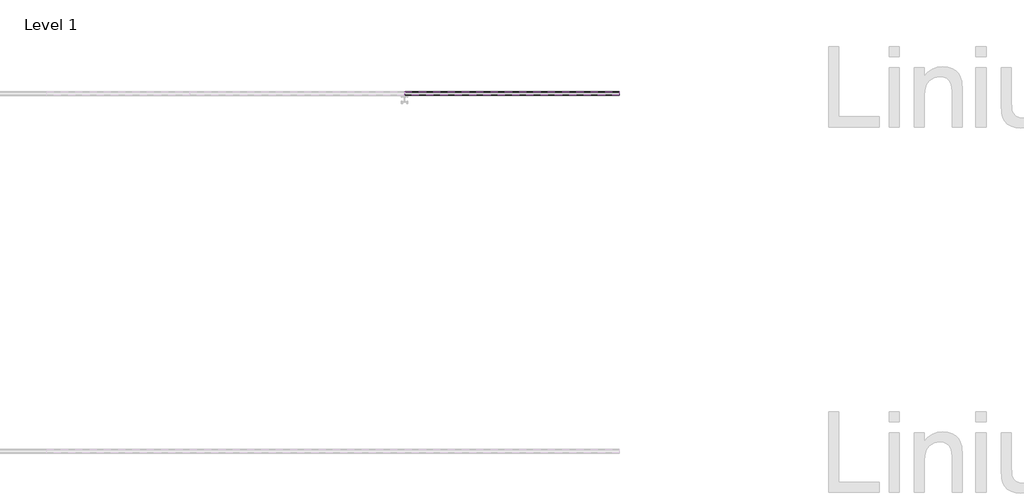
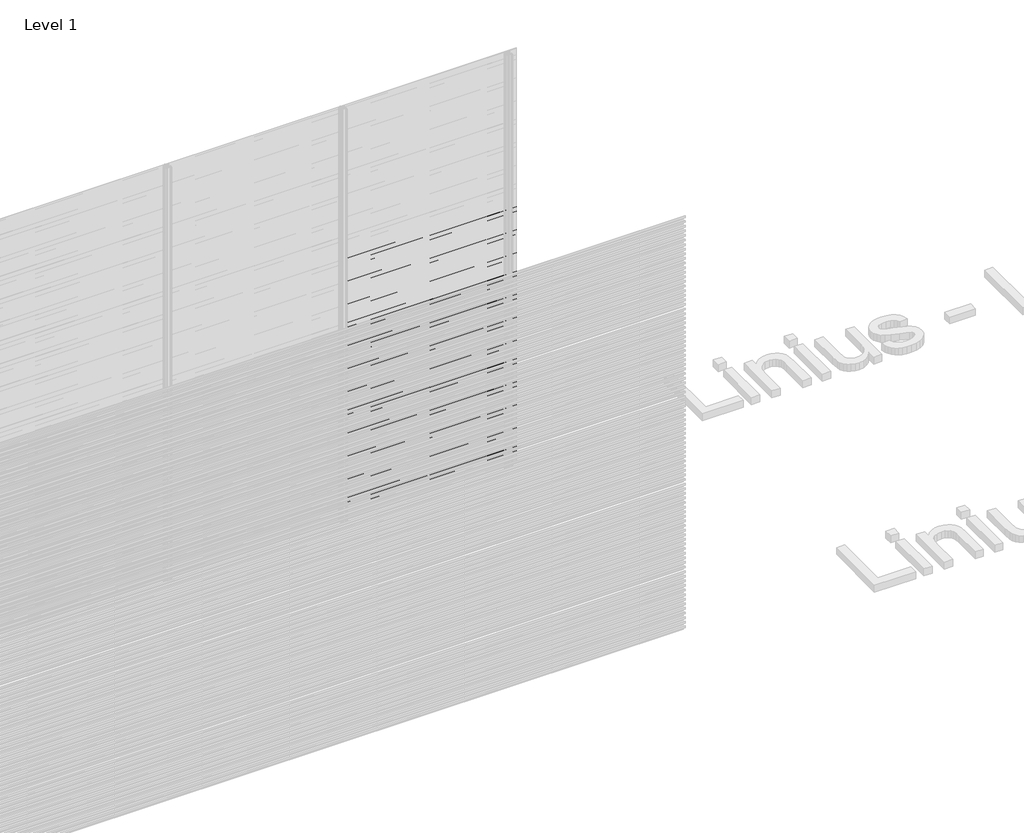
# One storey, part 42 of 507: 58 proxies.
"""IFC4 building model written with IfcOpenShell, lengths in millimetres."""

import ifcopenshell
import ifcopenshell.guid

model = None  # the IFC model being written
_history = None  # IfcOwnerHistory: only IFC2X3 demands one
_inside = {}  # id of a spatial element -> (the spatial element, [elements in it])
_under = {}  # id of a project, library or spatial element -> (it, [spatial elements below it])
_declared = {}  # id of a project -> (the project, [libraries it declares])
_typed = {}  # id of a type object -> (the type object, [elements of that type])
_made_of = {}  # id of a material, layer set ... -> (it, [elements and type objects made of it])


def new_model(schema):
    """Start an empty IFC model of exactly this schema.

    Asked for "IFC4X3", IfcOpenShell would pick the latest addendum, in which some entities
    have other attributes; the version numbers below select the first issue.
    IFC2X3 requires an IfcOwnerHistory on every rooted entity: one is made here for all.
    """
    global model, _history
    if schema == "IFC4X3":
        model = ifcopenshell.file(schema_version=(4, 3, 0, 0))
    else:
        model = ifcopenshell.file(schema=schema)
    _inside.clear()
    _under.clear()
    _declared.clear()
    _typed.clear()
    _made_of.clear()
    _history = None
    if model.schema == "IFC2X3":
        org = make("IfcOrganization", Name="unknown")
        user = make(
            "IfcPersonAndOrganization",
            ThePerson=make("IfcPerson", FamilyName="unknown"),
            TheOrganization=org,
        )
        app = make(
            "IfcApplication",
            ApplicationDeveloper=org,
            Version="unknown",
            ApplicationFullName="unknown",
            ApplicationIdentifier="unknown",
        )
        _history = make(
            "IfcOwnerHistory",
            OwningUser=user,
            OwningApplication=app,
            ChangeAction="ADDED",
            CreationDate=0,
        )
    return model


def make(cls, **values):
    """One entity of the class cls with the attributes given. An attribute that is None is left unset."""
    return model.create_entity(
        cls, **{name: value for name, value in values.items() if value is not None}
    )


def rooted(cls, **values):
    """An entity with a GlobalId (a new one), such as an element, a storey or a relation."""
    return make(cls, GlobalId=ifcopenshell.guid.new(), OwnerHistory=_history, **values)


def si_unit(unit_type, name, prefix=None):
    """IfcSIUnit, for example si_unit("LENGTHUNIT", "METRE", prefix="MILLI")."""
    return make("IfcSIUnit", UnitType=unit_type, Prefix=prefix, Name=name)


def assignment(units):
    """IfcUnitAssignment: the units of a project."""
    return None if units is None else make("IfcUnitAssignment", Units=units)


def point(xyz):
    """IfcCartesianPoint."""
    return None if xyz is None else make("IfcCartesianPoint", Coordinates=xyz)


def direction(xyz):
    """IfcDirection."""
    return None if xyz is None else make("IfcDirection", DirectionRatios=xyz)


def frame(location, z_axis=None, x_axis=None):
    """IfcAxis2Placement3D, a coordinate frame: its origin and axes. An axis left out is left unset."""
    return make(
        "IfcAxis2Placement3D",
        Location=point(location),
        Axis=direction(z_axis),
        RefDirection=direction(x_axis),
    )


def origin():
    """The frame at (0, 0, 0) with its axes left unset."""
    return frame((0.0, 0.0, 0.0))


def place(relative_to, where):
    """IfcLocalPlacement: puts the frame where relative to a parent placement (None: the world)."""
    return make(
        "IfcLocalPlacement", PlacementRelTo=relative_to, RelativePlacement=where
    )


def context(
    kind, dimensions, precision=None, world=None, true_north=None, identifier=None
):
    """IfcGeometricRepresentationContext, for example the 3D "Model" context."""
    return make(
        "IfcGeometricRepresentationContext",
        ContextIdentifier=identifier,
        ContextType=kind,
        CoordinateSpaceDimension=dimensions,
        Precision=precision,
        WorldCoordinateSystem=world,
        TrueNorth=true_north,
    )


def project(units=None, contexts=None):
    """IfcProject with its units and contexts."""
    return rooted(
        "IfcProject",
        Name="project",
        RepresentationContexts=contexts,
        UnitsInContext=assignment(units),
    )


def spatial(cls, under=None, at=None, **own):
    """A site, building, storey or space (cls), placed at a placement, below another one or the project."""
    s = rooted(cls, ObjectPlacement=at, **own)
    if under is not None:
        _under.setdefault(under.id(), (under, []))[1].append(s)
    return s


def polyline(points):
    """IfcPolyline through the points."""
    return make("IfcPolyline", Points=[point(p) for p in points])


def outline(outer, holes=None, kind="AREA"):
    """IfcArbitraryClosedProfileDef: a profile drawn as a closed curve; with holes, ...WithVoids."""
    if holes is None:
        return make("IfcArbitraryClosedProfileDef", ProfileType=kind, OuterCurve=outer)
    return make(
        "IfcArbitraryProfileDefWithVoids",
        ProfileType=kind,
        OuterCurve=outer,
        InnerCurves=holes,
    )


def extrude(swept, where, along, depth):
    """IfcExtrudedAreaSolid: the profile swept, set in the frame where, extruded along a direction by depth."""
    return make(
        "IfcExtrudedAreaSolid",
        SweptArea=swept,
        Position=where,
        ExtrudedDirection=direction(along),
        Depth=depth,
    )


def shape(context_of_items, identifier, shape_type, items):
    """IfcShapeRepresentation: the items that make up one representation, for example the "Body"."""
    return make(
        "IfcShapeRepresentation",
        ContextOfItems=context_of_items,
        RepresentationIdentifier=identifier,
        RepresentationType=shape_type,
        Items=items,
    )


def made_of(thing, what):
    """Note that an element or type object is made of a material, layer set ...; save() writes the relation."""
    if what is not None:
        _made_of.setdefault(what.id(), (what, []))[1].append(thing)
    return thing


def element(
    cls,
    number,
    at=None,
    inside=None,
    cuts=None,
    type_object=None,
    material=None,
    context=None,
    identifier="Body",
    shape_type=None,
    held_by="IfcProductDefinitionShape",
    body=None,
    shapes=None,
    **own,
):
    """One element of the class cls, such as IfcWall. Its Tag is "e" and its number.

    at: its placement. inside: the storey or other place that contains it. cuts: it is an
    opening in that element (IfcRelVoidsElement). A single representation is given by context,
    identifier, shape_type and body (its items); several are given by shapes. held_by: the class
    of the entity that holds the representations. save() writes the other relations.
    """
    e = rooted(cls, Tag="e%d" % number, ObjectPlacement=at, **own)
    if body is not None:
        shapes = [shape(context, identifier, shape_type, body)]
    if shapes is not None:
        e.Representation = make(held_by, Representations=shapes)
    if inside is not None:
        _inside.setdefault(inside.id(), (inside, []))[1].append(e)
    if cuts is not None:
        rooted(
            "IfcRelVoidsElement", RelatingBuildingElement=cuts, RelatedOpeningElement=e
        )
    if type_object is not None:
        _typed.setdefault(type_object.id(), (type_object, []))[1].append(e)
    return made_of(e, material)


def aggregate(whole, parts):
    """IfcRelAggregates: a whole, such as a stair, and the parts it consists of."""
    return rooted("IfcRelAggregates", RelatingObject=whole, RelatedObjects=parts)


def save(model, path):
    """Write the relations noted so far, then the file.

    IfcRelAggregates (storeys below a building ...), IfcRelContainedInSpatialStructure (elements
    in a storey), IfcRelDefinesByType, IfcRelAssociatesMaterial and IfcRelDeclares: one each for
    every whole, place, type object, material and project.
    """
    for whole, parts in _under.values():
        aggregate(whole, parts)
    for where, things in _inside.values():
        rooted(
            "IfcRelContainedInSpatialStructure",
            RelatedElements=things,
            RelatingStructure=where,
        )
    for kind, things in _typed.values():
        rooted("IfcRelDefinesByType", RelatedObjects=things, RelatingType=kind)
    for what, things in _made_of.values():
        rooted("IfcRelAssociatesMaterial", RelatedObjects=things, RelatingMaterial=what)
    for by, libraries in _declared.values():
        rooted("IfcRelDeclares", RelatingContext=by, RelatedDefinitions=libraries)
    model.write(path)


model = new_model("IFC4")

# Units and contexts
model_context = context("Model", 3, world=origin())
ifc_project = project(units=[si_unit("LENGTHUNIT", "METRE", prefix="MILLI")], contexts=[model_context])

# Site, building, storey
site = spatial("IfcSite", under=ifc_project)
building = spatial("IfcBuilding", under=site)
storey = spatial("IfcBuildingStorey", under=building, Name="Level 1", Elevation=0.0)

# Proxies
placement = place(None, origin())
element("IfcBuildingElementProxy", 1, Name="Wall Sweeps", at=placement, inside=storey, context=model_context, shape_type="SweptSolid", body=[
    extrude(outline(polyline([(21503.4540136, 1907.4), (21503.4540136, 1893.9), (21502.2040136, 1894.6216933), (21502.2040136, 1906.6782281), (21483.0540136, 1917.7345698), (21483.0540136, 1931.4), (21484.3040136, 1931.4), (21484.3040136, 1918.4562577), (21503.4540136, 1907.4)])), frame((49766.6208095, 0.0, 0.0), z_axis=(1.0, 0.0, 0.0), x_axis=(0.0, 1.0, 0.0)), (0.0, 0.0, 1.0), 1200.0000002),
])
element("IfcBuildingElementProxy", 2, Name="Wall Sweeps", at=placement, inside=storey, context=model_context, shape_type="SweptSolid", body=[
    extrude(outline(polyline([(21503.4540136, 1874.1), (21503.4540136, 1860.6), (21502.2040136, 1861.3216933), (21502.2040136, 1873.3782281), (21483.0540136, 1884.4345698), (21483.0540136, 1898.1), (21484.3040136, 1898.1), (21484.3040136, 1885.1562577), (21503.4540136, 1874.1)])), frame((49766.6208095, 0.0, 0.0), z_axis=(1.0, 0.0, 0.0), x_axis=(0.0, 1.0, 0.0)), (0.0, 0.0, 1.0), 1200.0000002),
])
element("IfcBuildingElementProxy", 3, Name="Wall Sweeps", at=placement, inside=storey, context=model_context, shape_type="SweptSolid", body=[
    extrude(outline(polyline([(21503.4540136, 1840.8), (21503.4540136, 1827.3), (21502.2040136, 1828.0216933), (21502.2040136, 1840.0782281), (21483.0540136, 1851.1345698), (21483.0540136, 1864.8), (21484.3040136, 1864.8), (21484.3040136, 1851.8562577), (21503.4540136, 1840.8)])), frame((49766.6208095, 0.0, 0.0), z_axis=(1.0, 0.0, 0.0), x_axis=(0.0, 1.0, 0.0)), (0.0, 0.0, 1.0), 1200.0000002),
])
element("IfcBuildingElementProxy", 4, Name="Wall Sweeps", at=placement, inside=storey, context=model_context, shape_type="SweptSolid", body=[
    extrude(outline(polyline([(21503.4540136, 1807.5), (21503.4540136, 1794.0), (21502.2040136, 1794.7216933), (21502.2040136, 1806.7782281), (21483.0540136, 1817.8345698), (21483.0540136, 1831.5), (21484.3040136, 1831.5), (21484.3040136, 1818.5562577), (21503.4540136, 1807.5)])), frame((49766.6208095, 0.0, 0.0), z_axis=(1.0, 0.0, 0.0), x_axis=(0.0, 1.0, 0.0)), (0.0, 0.0, 1.0), 1200.0000002),
])
element("IfcBuildingElementProxy", 5, Name="Wall Sweeps", at=placement, inside=storey, context=model_context, shape_type="SweptSolid", body=[
    extrude(outline(polyline([(21503.4540136, 1774.2), (21503.4540136, 1760.7), (21502.2040136, 1761.4216933), (21502.2040136, 1773.4782281), (21483.0540136, 1784.5345698), (21483.0540136, 1798.2), (21484.3040136, 1798.2), (21484.3040136, 1785.2562577), (21503.4540136, 1774.2)])), frame((49766.6208095, 0.0, 0.0), z_axis=(1.0, 0.0, 0.0), x_axis=(0.0, 1.0, 0.0)), (0.0, 0.0, 1.0), 1200.0000002),
])
element("IfcBuildingElementProxy", 6, Name="Wall Sweeps", at=placement, inside=storey, context=model_context, shape_type="SweptSolid", body=[
    extrude(outline(polyline([(21503.4540136, 1740.9), (21503.4540136, 1727.4), (21502.2040136, 1728.1216933), (21502.2040136, 1740.1782281), (21483.0540136, 1751.2345698), (21483.0540136, 1764.9), (21484.3040136, 1764.9), (21484.3040136, 1751.9562577), (21503.4540136, 1740.9)])), frame((49766.6208095, 0.0, 0.0), z_axis=(1.0, 0.0, 0.0), x_axis=(0.0, 1.0, 0.0)), (0.0, 0.0, 1.0), 1200.0000002),
])
element("IfcBuildingElementProxy", 7, Name="Wall Sweeps", at=placement, inside=storey, context=model_context, shape_type="SweptSolid", body=[
    extrude(outline(polyline([(21503.4540136, 1707.6), (21503.4540136, 1694.1), (21502.2040136, 1694.8216933), (21502.2040136, 1706.8782281), (21483.0540136, 1717.9345698), (21483.0540136, 1731.6), (21484.3040136, 1731.6), (21484.3040136, 1718.6562577), (21503.4540136, 1707.6)])), frame((49766.6208095, 0.0, 0.0), z_axis=(1.0, 0.0, 0.0), x_axis=(0.0, 1.0, 0.0)), (0.0, 0.0, 1.0), 1200.0000002),
])
element("IfcBuildingElementProxy", 8, Name="Wall Sweeps", at=placement, inside=storey, context=model_context, shape_type="SweptSolid", body=[
    extrude(outline(polyline([(21503.4540136, 1674.3), (21503.4540136, 1660.8), (21502.2040136, 1661.5216933), (21502.2040136, 1673.5782281), (21483.0540136, 1684.6345698), (21483.0540136, 1698.3), (21484.3040136, 1698.3), (21484.3040136, 1685.3562577), (21503.4540136, 1674.3)])), frame((49766.6208095, 0.0, 0.0), z_axis=(1.0, 0.0, 0.0), x_axis=(0.0, 1.0, 0.0)), (0.0, 0.0, 1.0), 1200.0000002),
])
element("IfcBuildingElementProxy", 9, Name="Wall Sweeps", at=placement, inside=storey, context=model_context, shape_type="SweptSolid", body=[
    extrude(outline(polyline([(21503.4540136, 1641.0), (21503.4540136, 1627.5), (21502.2040136, 1628.2216933), (21502.2040136, 1640.2782281), (21483.0540136, 1651.3345698), (21483.0540136, 1665.0), (21484.3040136, 1665.0), (21484.3040136, 1652.0562577), (21503.4540136, 1641.0)])), frame((49766.6208095, 0.0, 0.0), z_axis=(1.0, 0.0, 0.0), x_axis=(0.0, 1.0, 0.0)), (0.0, 0.0, 1.0), 1200.0000002),
])
element("IfcBuildingElementProxy", 10, Name="Wall Sweeps", at=placement, inside=storey, context=model_context, shape_type="SweptSolid", body=[
    extrude(outline(polyline([(21503.4540136, 1607.7), (21503.4540136, 1594.2), (21502.2040136, 1594.9216933), (21502.2040136, 1606.9782281), (21483.0540136, 1618.0345698), (21483.0540136, 1631.7), (21484.3040136, 1631.7), (21484.3040136, 1618.7562577), (21503.4540136, 1607.7)])), frame((49766.6208095, 0.0, 0.0), z_axis=(1.0, 0.0, 0.0), x_axis=(0.0, 1.0, 0.0)), (0.0, 0.0, 1.0), 1200.0000002),
])
element("IfcBuildingElementProxy", 11, Name="Wall Sweeps", at=placement, inside=storey, context=model_context, shape_type="SweptSolid", body=[
    extrude(outline(polyline([(21503.4540136, 1574.4), (21503.4540136, 1560.9), (21502.2040136, 1561.6216933), (21502.2040136, 1573.6782281), (21483.0540136, 1584.7345698), (21483.0540136, 1598.4), (21484.3040136, 1598.4), (21484.3040136, 1585.4562577), (21503.4540136, 1574.4)])), frame((49766.6208095, 0.0, 0.0), z_axis=(1.0, 0.0, 0.0), x_axis=(0.0, 1.0, 0.0)), (0.0, 0.0, 1.0), 1200.0000002),
])
element("IfcBuildingElementProxy", 12, Name="Wall Sweeps", at=placement, inside=storey, context=model_context, shape_type="SweptSolid", body=[
    extrude(outline(polyline([(21503.4540136, 1541.1), (21503.4540136, 1527.6), (21502.2040136, 1528.3216933), (21502.2040136, 1540.3782281), (21483.0540136, 1551.4345698), (21483.0540136, 1565.1), (21484.3040136, 1565.1), (21484.3040136, 1552.1562577), (21503.4540136, 1541.1)])), frame((49766.6208095, 0.0, 0.0), z_axis=(1.0, 0.0, 0.0), x_axis=(0.0, 1.0, 0.0)), (0.0, 0.0, 1.0), 1200.0000002),
])
element("IfcBuildingElementProxy", 13, Name="Wall Sweeps", at=placement, inside=storey, context=model_context, shape_type="SweptSolid", body=[
    extrude(outline(polyline([(21503.4540136, 1507.8), (21503.4540136, 1494.3), (21502.2040136, 1495.0216933), (21502.2040136, 1507.0782281), (21483.0540136, 1518.1345698), (21483.0540136, 1531.8), (21484.3040136, 1531.8), (21484.3040136, 1518.8562577), (21503.4540136, 1507.8)])), frame((49766.6208095, 0.0, 0.0), z_axis=(1.0, 0.0, 0.0), x_axis=(0.0, 1.0, 0.0)), (0.0, 0.0, 1.0), 1200.0000002),
])
element("IfcBuildingElementProxy", 14, Name="Wall Sweeps", at=placement, inside=storey, context=model_context, shape_type="SweptSolid", body=[
    extrude(outline(polyline([(21503.4540136, 1474.5), (21503.4540136, 1461.0), (21502.2040136, 1461.7216933), (21502.2040136, 1473.7782281), (21483.0540136, 1484.8345698), (21483.0540136, 1498.5), (21484.3040136, 1498.5), (21484.3040136, 1485.5562577), (21503.4540136, 1474.5)])), frame((49766.6208095, 0.0, 0.0), z_axis=(1.0, 0.0, 0.0), x_axis=(0.0, 1.0, 0.0)), (0.0, 0.0, 1.0), 1200.0000002),
])
element("IfcBuildingElementProxy", 15, Name="Wall Sweeps", at=placement, inside=storey, context=model_context, shape_type="SweptSolid", body=[
    extrude(outline(polyline([(21503.4540136, 1441.2), (21503.4540136, 1427.7), (21502.2040136, 1428.4216933), (21502.2040136, 1440.4782281), (21483.0540136, 1451.5345698), (21483.0540136, 1465.2), (21484.3040136, 1465.2), (21484.3040136, 1452.2562577), (21503.4540136, 1441.2)])), frame((49766.6208095, 0.0, 0.0), z_axis=(1.0, 0.0, 0.0), x_axis=(0.0, 1.0, 0.0)), (0.0, 0.0, 1.0), 1200.0000002),
])
element("IfcBuildingElementProxy", 16, Name="Wall Sweeps", at=placement, inside=storey, context=model_context, shape_type="SweptSolid", body=[
    extrude(outline(polyline([(21503.4540136, 1407.9), (21503.4540136, 1394.4), (21502.2040136, 1395.1216933), (21502.2040136, 1407.1782281), (21483.0540136, 1418.2345698), (21483.0540136, 1431.9), (21484.3040136, 1431.9), (21484.3040136, 1418.9562577), (21503.4540136, 1407.9)])), frame((49766.6208095, 0.0, 0.0), z_axis=(1.0, 0.0, 0.0), x_axis=(0.0, 1.0, 0.0)), (0.0, 0.0, 1.0), 1200.0000002),
])
element("IfcBuildingElementProxy", 17, Name="Wall Sweeps", at=placement, inside=storey, context=model_context, shape_type="SweptSolid", body=[
    extrude(outline(polyline([(21503.4540136, 1374.6), (21503.4540136, 1361.1), (21502.2040136, 1361.8216933), (21502.2040136, 1373.8782281), (21483.0540136, 1384.9345698), (21483.0540136, 1398.6), (21484.3040136, 1398.6), (21484.3040136, 1385.6562577), (21503.4540136, 1374.6)])), frame((49766.6208095, 0.0, 0.0), z_axis=(1.0, 0.0, 0.0), x_axis=(0.0, 1.0, 0.0)), (0.0, 0.0, 1.0), 1200.0000002),
])
element("IfcBuildingElementProxy", 18, Name="Wall Sweeps", at=placement, inside=storey, context=model_context, shape_type="SweptSolid", body=[
    extrude(outline(polyline([(21503.4540136, 1341.3), (21503.4540136, 1327.8), (21502.2040136, 1328.5216933), (21502.2040136, 1340.5782281), (21483.0540136, 1351.6345698), (21483.0540136, 1365.3), (21484.3040136, 1365.3), (21484.3040136, 1352.3562577), (21503.4540136, 1341.3)])), frame((49766.6208095, 0.0, 0.0), z_axis=(1.0, 0.0, 0.0), x_axis=(0.0, 1.0, 0.0)), (0.0, 0.0, 1.0), 1200.0000002),
])
element("IfcBuildingElementProxy", 19, Name="Wall Sweeps", at=placement, inside=storey, context=model_context, shape_type="SweptSolid", body=[
    extrude(outline(polyline([(21503.4540136, 1308.0), (21503.4540136, 1294.5), (21502.2040136, 1295.2216933), (21502.2040136, 1307.2782281), (21483.0540136, 1318.3345698), (21483.0540136, 1332.0), (21484.3040136, 1332.0), (21484.3040136, 1319.0562577), (21503.4540136, 1308.0)])), frame((49766.6208095, 0.0, 0.0), z_axis=(1.0, 0.0, 0.0), x_axis=(0.0, 1.0, 0.0)), (0.0, 0.0, 1.0), 1200.0000002),
])
element("IfcBuildingElementProxy", 20, Name="Wall Sweeps", at=placement, inside=storey, context=model_context, shape_type="SweptSolid", body=[
    extrude(outline(polyline([(21503.4540136, 1274.7), (21503.4540136, 1261.2), (21502.2040136, 1261.9216933), (21502.2040136, 1273.9782281), (21483.0540136, 1285.0345698), (21483.0540136, 1298.7), (21484.3040136, 1298.7), (21484.3040136, 1285.7562577), (21503.4540136, 1274.7)])), frame((49766.6208095, 0.0, 0.0), z_axis=(1.0, 0.0, 0.0), x_axis=(0.0, 1.0, 0.0)), (0.0, 0.0, 1.0), 1200.0000002),
])
element("IfcBuildingElementProxy", 21, Name="Wall Sweeps", at=placement, inside=storey, context=model_context, shape_type="SweptSolid", body=[
    extrude(outline(polyline([(21503.4540136, 1241.4), (21503.4540136, 1227.9), (21502.2040136, 1228.6216933), (21502.2040136, 1240.6782281), (21483.0540136, 1251.7345698), (21483.0540136, 1265.4), (21484.3040136, 1265.4), (21484.3040136, 1252.4562577), (21503.4540136, 1241.4)])), frame((49766.6208095, 0.0, 0.0), z_axis=(1.0, 0.0, 0.0), x_axis=(0.0, 1.0, 0.0)), (0.0, 0.0, 1.0), 1200.0000002),
])
element("IfcBuildingElementProxy", 22, Name="Wall Sweeps", at=placement, inside=storey, context=model_context, shape_type="SweptSolid", body=[
    extrude(outline(polyline([(21503.4540136, 1208.1), (21503.4540136, 1194.6), (21502.2040136, 1195.3216933), (21502.2040136, 1207.3782281), (21483.0540136, 1218.4345698), (21483.0540136, 1232.1), (21484.3040136, 1232.1), (21484.3040136, 1219.1562577), (21503.4540136, 1208.1)])), frame((49766.6208095, 0.0, 0.0), z_axis=(1.0, 0.0, 0.0), x_axis=(0.0, 1.0, 0.0)), (0.0, 0.0, 1.0), 1200.0000002),
])
element("IfcBuildingElementProxy", 23, Name="Wall Sweeps", at=placement, inside=storey, context=model_context, shape_type="SweptSolid", body=[
    extrude(outline(polyline([(21503.4540136, 1174.8), (21503.4540136, 1161.3), (21502.2040136, 1162.0216933), (21502.2040136, 1174.0782281), (21483.0540136, 1185.1345698), (21483.0540136, 1198.8), (21484.3040136, 1198.8), (21484.3040136, 1185.8562577), (21503.4540136, 1174.8)])), frame((49766.6208095, 0.0, 0.0), z_axis=(1.0, 0.0, 0.0), x_axis=(0.0, 1.0, 0.0)), (0.0, 0.0, 1.0), 1200.0000002),
])
element("IfcBuildingElementProxy", 24, Name="Wall Sweeps", at=placement, inside=storey, context=model_context, shape_type="SweptSolid", body=[
    extrude(outline(polyline([(21503.4540136, 1141.5), (21503.4540136, 1128.0), (21502.2040136, 1128.7216933), (21502.2040136, 1140.7782281), (21483.0540136, 1151.8345698), (21483.0540136, 1165.5), (21484.3040136, 1165.5), (21484.3040136, 1152.5562577), (21503.4540136, 1141.5)])), frame((49766.6208095, 0.0, 0.0), z_axis=(1.0, 0.0, 0.0), x_axis=(0.0, 1.0, 0.0)), (0.0, 0.0, 1.0), 1200.0000002),
])
element("IfcBuildingElementProxy", 25, Name="Wall Sweeps", at=placement, inside=storey, context=model_context, shape_type="SweptSolid", body=[
    extrude(outline(polyline([(21503.4540136, 1108.2), (21503.4540136, 1094.7), (21502.2040136, 1095.4216933), (21502.2040136, 1107.4782281), (21483.0540136, 1118.5345698), (21483.0540136, 1132.2), (21484.3040136, 1132.2), (21484.3040136, 1119.2562577), (21503.4540136, 1108.2)])), frame((49766.6208095, 0.0, 0.0), z_axis=(1.0, 0.0, 0.0), x_axis=(0.0, 1.0, 0.0)), (0.0, 0.0, 1.0), 1200.0000002),
])
element("IfcBuildingElementProxy", 26, Name="Wall Sweeps", at=placement, inside=storey, context=model_context, shape_type="SweptSolid", body=[
    extrude(outline(polyline([(21503.4540136, 1074.9), (21503.4540136, 1061.4), (21502.2040136, 1062.1216933), (21502.2040136, 1074.1782281), (21483.0540136, 1085.2345698), (21483.0540136, 1098.9), (21484.3040136, 1098.9), (21484.3040136, 1085.9562577), (21503.4540136, 1074.9)])), frame((49766.6208095, 0.0, 0.0), z_axis=(1.0, 0.0, 0.0), x_axis=(0.0, 1.0, 0.0)), (0.0, 0.0, 1.0), 1200.0000002),
])
element("IfcBuildingElementProxy", 27, Name="Wall Sweeps", at=placement, inside=storey, context=model_context, shape_type="SweptSolid", body=[
    extrude(outline(polyline([(21503.4540136, 1041.6), (21503.4540136, 1028.1), (21502.2040136, 1028.8216933), (21502.2040136, 1040.8782281), (21483.0540136, 1051.9345698), (21483.0540136, 1065.6), (21484.3040136, 1065.6), (21484.3040136, 1052.6562577), (21503.4540136, 1041.6)])), frame((49766.6208095, 0.0, 0.0), z_axis=(1.0, 0.0, 0.0), x_axis=(0.0, 1.0, 0.0)), (0.0, 0.0, 1.0), 1200.0000002),
])
element("IfcBuildingElementProxy", 28, Name="Wall Sweeps", at=placement, inside=storey, context=model_context, shape_type="SweptSolid", body=[
    extrude(outline(polyline([(21503.4540136, 1008.3), (21503.4540136, 994.8), (21502.2040136, 995.5216933), (21502.2040136, 1007.5782281), (21483.0540136, 1018.6345698), (21483.0540136, 1032.3), (21484.3040136, 1032.3), (21484.3040136, 1019.3562577), (21503.4540136, 1008.3)])), frame((49766.6208095, 0.0, 0.0), z_axis=(1.0, 0.0, 0.0), x_axis=(0.0, 1.0, 0.0)), (0.0, 0.0, 1.0), 1200.0000002),
])
element("IfcBuildingElementProxy", 29, Name="Wall Sweeps", at=placement, inside=storey, context=model_context, shape_type="SweptSolid", body=[
    extrude(outline(polyline([(21503.4540136, 975.0), (21503.4540136, 961.5), (21502.2040136, 962.2216933), (21502.2040136, 974.2782281), (21483.0540136, 985.3345698), (21483.0540136, 999.0), (21484.3040136, 999.0), (21484.3040136, 986.0562577), (21503.4540136, 975.0)])), frame((49766.6208095, 0.0, 0.0), z_axis=(1.0, 0.0, 0.0), x_axis=(0.0, 1.0, 0.0)), (0.0, 0.0, 1.0), 1200.0000002),
])
element("IfcBuildingElementProxy", 30, Name="Wall Sweeps", at=placement, inside=storey, context=model_context, shape_type="SweptSolid", body=[
    extrude(outline(polyline([(21503.4540136, 941.7), (21503.4540136, 928.2), (21502.2040136, 928.9216933), (21502.2040136, 940.9782281), (21483.0540136, 952.0345698), (21483.0540136, 965.7), (21484.3040136, 965.7), (21484.3040136, 952.7562577), (21503.4540136, 941.7)])), frame((49766.6208095, 0.0, 0.0), z_axis=(1.0, 0.0, 0.0), x_axis=(0.0, 1.0, 0.0)), (0.0, 0.0, 1.0), 1200.0000002),
])
element("IfcBuildingElementProxy", 31, Name="Wall Sweeps", at=placement, inside=storey, context=model_context, shape_type="SweptSolid", body=[
    extrude(outline(polyline([(21503.4540136, 908.4), (21503.4540136, 894.9), (21502.2040136, 895.6216933), (21502.2040136, 907.6782281), (21483.0540136, 918.7345698), (21483.0540136, 932.4), (21484.3040136, 932.4), (21484.3040136, 919.4562577), (21503.4540136, 908.4)])), frame((49766.6208095, 0.0, 0.0), z_axis=(1.0, 0.0, 0.0), x_axis=(0.0, 1.0, 0.0)), (0.0, 0.0, 1.0), 1200.0000002),
])
element("IfcBuildingElementProxy", 32, Name="Wall Sweeps", at=placement, inside=storey, context=model_context, shape_type="SweptSolid", body=[
    extrude(outline(polyline([(21503.4540136, 875.1), (21503.4540136, 861.6), (21502.2040136, 862.3216933), (21502.2040136, 874.3782281), (21483.0540136, 885.4345698), (21483.0540136, 899.1), (21484.3040136, 899.1), (21484.3040136, 886.1562577), (21503.4540136, 875.1)])), frame((49766.6208095, 0.0, 0.0), z_axis=(1.0, 0.0, 0.0), x_axis=(0.0, 1.0, 0.0)), (0.0, 0.0, 1.0), 1200.0000002),
])
element("IfcBuildingElementProxy", 33, Name="Wall Sweeps", at=placement, inside=storey, context=model_context, shape_type="SweptSolid", body=[
    extrude(outline(polyline([(21503.4540136, 841.8), (21503.4540136, 828.3), (21502.2040136, 829.0216933), (21502.2040136, 841.0782281), (21483.0540136, 852.1345698), (21483.0540136, 865.8), (21484.3040136, 865.8), (21484.3040136, 852.8562577), (21503.4540136, 841.8)])), frame((49766.6208095, 0.0, 0.0), z_axis=(1.0, 0.0, 0.0), x_axis=(0.0, 1.0, 0.0)), (0.0, 0.0, 1.0), 1200.0000002),
])
element("IfcBuildingElementProxy", 34, Name="Wall Sweeps", at=placement, inside=storey, context=model_context, shape_type="SweptSolid", body=[
    extrude(outline(polyline([(21503.4540136, 808.5), (21503.4540136, 795.0), (21502.2040136, 795.7216933), (21502.2040136, 807.7782281), (21483.0540136, 818.8345698), (21483.0540136, 832.5), (21484.3040136, 832.5), (21484.3040136, 819.5562577), (21503.4540136, 808.5)])), frame((49766.6208095, 0.0, 0.0), z_axis=(1.0, 0.0, 0.0), x_axis=(0.0, 1.0, 0.0)), (0.0, 0.0, 1.0), 1200.0000002),
])
element("IfcBuildingElementProxy", 35, Name="Wall Sweeps", at=placement, inside=storey, context=model_context, shape_type="SweptSolid", body=[
    extrude(outline(polyline([(21503.4540136, 775.2), (21503.4540136, 761.7), (21502.2040136, 762.4216933), (21502.2040136, 774.4782281), (21483.0540136, 785.5345698), (21483.0540136, 799.2), (21484.3040136, 799.2), (21484.3040136, 786.2562577), (21503.4540136, 775.2)])), frame((49766.6208095, 0.0, 0.0), z_axis=(1.0, 0.0, 0.0), x_axis=(0.0, 1.0, 0.0)), (0.0, 0.0, 1.0), 1200.0000002),
])
element("IfcBuildingElementProxy", 36, Name="Wall Sweeps", at=placement, inside=storey, context=model_context, shape_type="SweptSolid", body=[
    extrude(outline(polyline([(21503.4540136, 741.9), (21503.4540136, 728.4), (21502.2040136, 729.1216933), (21502.2040136, 741.1782281), (21483.0540136, 752.2345698), (21483.0540136, 765.9), (21484.3040136, 765.9), (21484.3040136, 752.9562577), (21503.4540136, 741.9)])), frame((49766.6208095, 0.0, 0.0), z_axis=(1.0, 0.0, 0.0), x_axis=(0.0, 1.0, 0.0)), (0.0, 0.0, 1.0), 1200.0000002),
])
element("IfcBuildingElementProxy", 37, Name="Wall Sweeps", at=placement, inside=storey, context=model_context, shape_type="SweptSolid", body=[
    extrude(outline(polyline([(21503.4540136, 708.6), (21503.4540136, 695.1), (21502.2040136, 695.8216933), (21502.2040136, 707.8782281), (21483.0540136, 718.9345698), (21483.0540136, 732.6), (21484.3040136, 732.6), (21484.3040136, 719.6562577), (21503.4540136, 708.6)])), frame((49766.6208095, 0.0, 0.0), z_axis=(1.0, 0.0, 0.0), x_axis=(0.0, 1.0, 0.0)), (0.0, 0.0, 1.0), 1200.0000002),
])
element("IfcBuildingElementProxy", 38, Name="Wall Sweeps", at=placement, inside=storey, context=model_context, shape_type="SweptSolid", body=[
    extrude(outline(polyline([(21503.4540136, 675.3), (21503.4540136, 661.8), (21502.2040136, 662.5216933), (21502.2040136, 674.5782281), (21483.0540136, 685.6345698), (21483.0540136, 699.3), (21484.3040136, 699.3), (21484.3040136, 686.3562577), (21503.4540136, 675.3)])), frame((49766.6208095, 0.0, 0.0), z_axis=(1.0, 0.0, 0.0), x_axis=(0.0, 1.0, 0.0)), (0.0, 0.0, 1.0), 1200.0000002),
])
element("IfcBuildingElementProxy", 39, Name="Wall Sweeps", at=placement, inside=storey, context=model_context, shape_type="SweptSolid", body=[
    extrude(outline(polyline([(21503.4540136, 642.0), (21503.4540136, 628.5), (21502.2040136, 629.2216933), (21502.2040136, 641.2782281), (21483.0540136, 652.3345698), (21483.0540136, 666.0), (21484.3040136, 666.0), (21484.3040136, 653.0562577), (21503.4540136, 642.0)])), frame((49766.6208095, 0.0, 0.0), z_axis=(1.0, 0.0, 0.0), x_axis=(0.0, 1.0, 0.0)), (0.0, 0.0, 1.0), 1200.0000002),
])
element("IfcBuildingElementProxy", 40, Name="Wall Sweeps", at=placement, inside=storey, context=model_context, shape_type="SweptSolid", body=[
    extrude(outline(polyline([(21503.4540136, 608.7), (21503.4540136, 595.2), (21502.2040136, 595.9216933), (21502.2040136, 607.9782281), (21483.0540136, 619.0345698), (21483.0540136, 632.7), (21484.3040136, 632.7), (21484.3040136, 619.7562577), (21503.4540136, 608.7)])), frame((49766.6208095, 0.0, 0.0), z_axis=(1.0, 0.0, 0.0), x_axis=(0.0, 1.0, 0.0)), (0.0, 0.0, 1.0), 1200.0000002),
])
element("IfcBuildingElementProxy", 41, Name="Wall Sweeps", at=placement, inside=storey, context=model_context, shape_type="SweptSolid", body=[
    extrude(outline(polyline([(21503.4540136, 575.4), (21503.4540136, 561.9), (21502.2040136, 562.6216933), (21502.2040136, 574.6782281), (21483.0540136, 585.7345698), (21483.0540136, 599.4), (21484.3040136, 599.4), (21484.3040136, 586.4562577), (21503.4540136, 575.4)])), frame((49766.6208095, 0.0, 0.0), z_axis=(1.0, 0.0, 0.0), x_axis=(0.0, 1.0, 0.0)), (0.0, 0.0, 1.0), 1200.0000002),
])
element("IfcBuildingElementProxy", 42, Name="Wall Sweeps", at=placement, inside=storey, context=model_context, shape_type="SweptSolid", body=[
    extrude(outline(polyline([(21503.4540136, 542.1), (21503.4540136, 528.6), (21502.2040136, 529.3216933), (21502.2040136, 541.3782281), (21483.0540136, 552.4345698), (21483.0540136, 566.1), (21484.3040136, 566.1), (21484.3040136, 553.1562577), (21503.4540136, 542.1)])), frame((49766.6208095, 0.0, 0.0), z_axis=(1.0, 0.0, 0.0), x_axis=(0.0, 1.0, 0.0)), (0.0, 0.0, 1.0), 1200.0000002),
])
element("IfcBuildingElementProxy", 43, Name="Wall Sweeps", at=placement, inside=storey, context=model_context, shape_type="SweptSolid", body=[
    extrude(outline(polyline([(21503.4540136, 508.8), (21503.4540136, 495.3), (21502.2040136, 496.0216933), (21502.2040136, 508.0782281), (21483.0540136, 519.1345698), (21483.0540136, 532.8), (21484.3040136, 532.8), (21484.3040136, 519.8562577), (21503.4540136, 508.8)])), frame((49766.6208095, 0.0, 0.0), z_axis=(1.0, 0.0, 0.0), x_axis=(0.0, 1.0, 0.0)), (0.0, 0.0, 1.0), 1200.0000002),
])
element("IfcBuildingElementProxy", 44, Name="Wall Sweeps", at=placement, inside=storey, context=model_context, shape_type="SweptSolid", body=[
    extrude(outline(polyline([(21503.4540136, 475.5), (21503.4540136, 462.0), (21502.2040136, 462.7216933), (21502.2040136, 474.7782281), (21483.0540136, 485.8345698), (21483.0540136, 499.5), (21484.3040136, 499.5), (21484.3040136, 486.5562577), (21503.4540136, 475.5)])), frame((49766.6208095, 0.0, 0.0), z_axis=(1.0, 0.0, 0.0), x_axis=(0.0, 1.0, 0.0)), (0.0, 0.0, 1.0), 1200.0000002),
])
element("IfcBuildingElementProxy", 45, Name="Wall Sweeps", at=placement, inside=storey, context=model_context, shape_type="SweptSolid", body=[
    extrude(outline(polyline([(21503.4540136, 442.2), (21503.4540136, 428.7), (21502.2040136, 429.4216933), (21502.2040136, 441.4782281), (21483.0540136, 452.5345698), (21483.0540136, 466.2), (21484.3040136, 466.2), (21484.3040136, 453.2562577), (21503.4540136, 442.2)])), frame((49766.6208095, 0.0, 0.0), z_axis=(1.0, 0.0, 0.0), x_axis=(0.0, 1.0, 0.0)), (0.0, 0.0, 1.0), 1200.0000002),
])
element("IfcBuildingElementProxy", 46, Name="Wall Sweeps", at=placement, inside=storey, context=model_context, shape_type="SweptSolid", body=[
    extrude(outline(polyline([(21503.4540136, 408.9), (21503.4540136, 395.4), (21502.2040136, 396.1216933), (21502.2040136, 408.1782281), (21483.0540136, 419.2345698), (21483.0540136, 432.9), (21484.3040136, 432.9), (21484.3040136, 419.9562577), (21503.4540136, 408.9)])), frame((49766.6208095, 0.0, 0.0), z_axis=(1.0, 0.0, 0.0), x_axis=(0.0, 1.0, 0.0)), (0.0, 0.0, 1.0), 1200.0000002),
])
element("IfcBuildingElementProxy", 47, Name="Wall Sweeps", at=placement, inside=storey, context=model_context, shape_type="SweptSolid", body=[
    extrude(outline(polyline([(21503.4540136, 375.6), (21503.4540136, 362.1), (21502.2040136, 362.8216933), (21502.2040136, 374.8782281), (21483.0540136, 385.9345698), (21483.0540136, 399.6), (21484.3040136, 399.6), (21484.3040136, 386.6562577), (21503.4540136, 375.6)])), frame((49766.6208095, 0.0, 0.0), z_axis=(1.0, 0.0, 0.0), x_axis=(0.0, 1.0, 0.0)), (0.0, 0.0, 1.0), 1200.0000002),
])
element("IfcBuildingElementProxy", 48, Name="Wall Sweeps", at=placement, inside=storey, context=model_context, shape_type="SweptSolid", body=[
    extrude(outline(polyline([(21503.4540136, 342.3), (21503.4540136, 328.8), (21502.2040136, 329.5216933), (21502.2040136, 341.5782281), (21483.0540136, 352.6345698), (21483.0540136, 366.3), (21484.3040136, 366.3), (21484.3040136, 353.3562577), (21503.4540136, 342.3)])), frame((49766.6208095, 0.0, 0.0), z_axis=(1.0, 0.0, 0.0), x_axis=(0.0, 1.0, 0.0)), (0.0, 0.0, 1.0), 1200.0000002),
])
element("IfcBuildingElementProxy", 49, Name="Wall Sweeps", at=placement, inside=storey, context=model_context, shape_type="SweptSolid", body=[
    extrude(outline(polyline([(21503.4540136, 309.0), (21503.4540136, 295.5), (21502.2040136, 296.2216933), (21502.2040136, 308.2782281), (21483.0540136, 319.3345698), (21483.0540136, 333.0), (21484.3040136, 333.0), (21484.3040136, 320.0562577), (21503.4540136, 309.0)])), frame((49766.6208095, 0.0, 0.0), z_axis=(1.0, 0.0, 0.0), x_axis=(0.0, 1.0, 0.0)), (0.0, 0.0, 1.0), 1200.0000002),
])
element("IfcBuildingElementProxy", 50, Name="Wall Sweeps", at=placement, inside=storey, context=model_context, shape_type="SweptSolid", body=[
    extrude(outline(polyline([(21503.4540136, 275.7), (21503.4540136, 262.2), (21502.2040136, 262.9216933), (21502.2040136, 274.9782281), (21483.0540136, 286.0345698), (21483.0540136, 299.7), (21484.3040136, 299.7), (21484.3040136, 286.7562577), (21503.4540136, 275.7)])), frame((49766.6208095, 0.0, 0.0), z_axis=(1.0, 0.0, 0.0), x_axis=(0.0, 1.0, 0.0)), (0.0, 0.0, 1.0), 1200.0000002),
])
element("IfcBuildingElementProxy", 51, Name="Wall Sweeps", at=placement, inside=storey, context=model_context, shape_type="SweptSolid", body=[
    extrude(outline(polyline([(21503.4540136, 242.4), (21503.4540136, 228.9), (21502.2040136, 229.6216933), (21502.2040136, 241.6782281), (21483.0540136, 252.7345698), (21483.0540136, 266.4), (21484.3040136, 266.4), (21484.3040136, 253.4562577), (21503.4540136, 242.4)])), frame((49766.6208095, 0.0, 0.0), z_axis=(1.0, 0.0, 0.0), x_axis=(0.0, 1.0, 0.0)), (0.0, 0.0, 1.0), 1200.0000002),
])
element("IfcBuildingElementProxy", 52, Name="Wall Sweeps", at=placement, inside=storey, context=model_context, shape_type="SweptSolid", body=[
    extrude(outline(polyline([(21503.4540136, 209.1), (21503.4540136, 195.6), (21502.2040136, 196.3216933), (21502.2040136, 208.3782281), (21483.0540136, 219.4345698), (21483.0540136, 233.1), (21484.3040136, 233.1), (21484.3040136, 220.1562577), (21503.4540136, 209.1)])), frame((49766.6208095, 0.0, 0.0), z_axis=(1.0, 0.0, 0.0), x_axis=(0.0, 1.0, 0.0)), (0.0, 0.0, 1.0), 1200.0000002),
])
element("IfcBuildingElementProxy", 53, Name="Wall Sweeps", at=placement, inside=storey, context=model_context, shape_type="SweptSolid", body=[
    extrude(outline(polyline([(21503.4540136, 175.8), (21503.4540136, 162.3), (21502.2040136, 163.0216933), (21502.2040136, 175.0782281), (21483.0540136, 186.1345698), (21483.0540136, 199.8), (21484.3040136, 199.8), (21484.3040136, 186.8562577), (21503.4540136, 175.8)])), frame((49766.6208095, 0.0, 0.0), z_axis=(1.0, 0.0, 0.0), x_axis=(0.0, 1.0, 0.0)), (0.0, 0.0, 1.0), 1200.0000002),
])
element("IfcBuildingElementProxy", 54, Name="Wall Sweeps", at=placement, inside=storey, context=model_context, shape_type="SweptSolid", body=[
    extrude(outline(polyline([(21503.4540136, 142.5), (21503.4540136, 129.0), (21502.2040136, 129.7216933), (21502.2040136, 141.7782281), (21483.0540136, 152.8345698), (21483.0540136, 166.5), (21484.3040136, 166.5), (21484.3040136, 153.5562577), (21503.4540136, 142.5)])), frame((49766.6208095, 0.0, 0.0), z_axis=(1.0, 0.0, 0.0), x_axis=(0.0, 1.0, 0.0)), (0.0, 0.0, 1.0), 1200.0000002),
])
element("IfcBuildingElementProxy", 55, Name="Wall Sweeps", at=placement, inside=storey, context=model_context, shape_type="SweptSolid", body=[
    extrude(outline(polyline([(21503.4540136, 109.2), (21503.4540136, 95.7), (21502.2040136, 96.4216933), (21502.2040136, 108.4782281), (21483.0540136, 119.5345698), (21483.0540136, 133.2), (21484.3040136, 133.2), (21484.3040136, 120.2562577), (21503.4540136, 109.2)])), frame((49766.6208095, 0.0, 0.0), z_axis=(1.0, 0.0, 0.0), x_axis=(0.0, 1.0, 0.0)), (0.0, 0.0, 1.0), 1200.0000002),
])
element("IfcBuildingElementProxy", 56, Name="Wall Sweeps", at=placement, inside=storey, context=model_context, shape_type="SweptSolid", body=[
    extrude(outline(polyline([(21503.4540136, 75.9), (21503.4540136, 62.4), (21502.2040136, 63.1216933), (21502.2040136, 75.1782281), (21483.0540136, 86.2345698), (21483.0540136, 99.9), (21484.3040136, 99.9), (21484.3040136, 86.9562577), (21503.4540136, 75.9)])), frame((49766.6208095, 0.0, 0.0), z_axis=(1.0, 0.0, 0.0), x_axis=(0.0, 1.0, 0.0)), (0.0, 0.0, 1.0), 1200.0000002),
])
element("IfcBuildingElementProxy", 57, Name="Wall Sweeps", at=placement, inside=storey, context=model_context, shape_type="SweptSolid", body=[
    extrude(outline(polyline([(21503.4540136, 42.6), (21503.4540136, 29.1), (21502.2040136, 29.8216933), (21502.2040136, 41.8782281), (21483.0540136, 52.9345698), (21483.0540136, 66.6), (21484.3040136, 66.6), (21484.3040136, 53.6562577), (21503.4540136, 42.6)])), frame((49766.6208095, 0.0, 0.0), z_axis=(1.0, 0.0, 0.0), x_axis=(0.0, 1.0, 0.0)), (0.0, 0.0, 1.0), 1200.0000002),
])
element("IfcBuildingElementProxy", 58, Name="Wall Sweeps", at=placement, inside=storey, context=model_context, shape_type="SweptSolid", body=[
    extrude(outline(polyline([(21503.4540136, 9.3), (21503.4540136, -4.2), (21502.2040136, -3.4783067), (21502.2040136, 8.5782281), (21483.0540136, 19.6345698), (21483.0540136, 33.3), (21484.3040136, 33.3), (21484.3040136, 20.3562577), (21503.4540136, 9.3)])), frame((49766.6208095, 0.0, 0.0), z_axis=(1.0, 0.0, 0.0), x_axis=(0.0, 1.0, 0.0)), (0.0, 0.0, 1.0), 1200.0000002),
])

save(model, "model.ifc")
